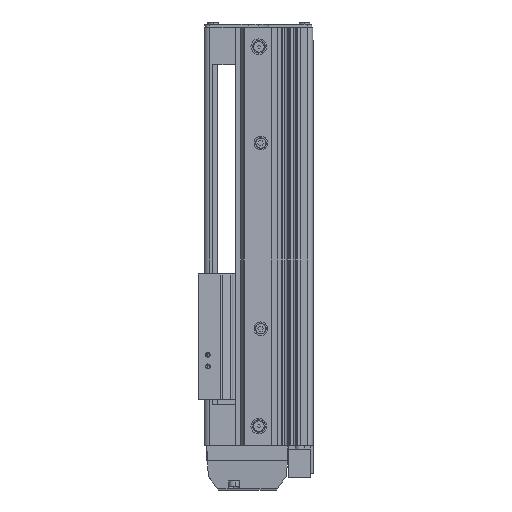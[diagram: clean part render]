
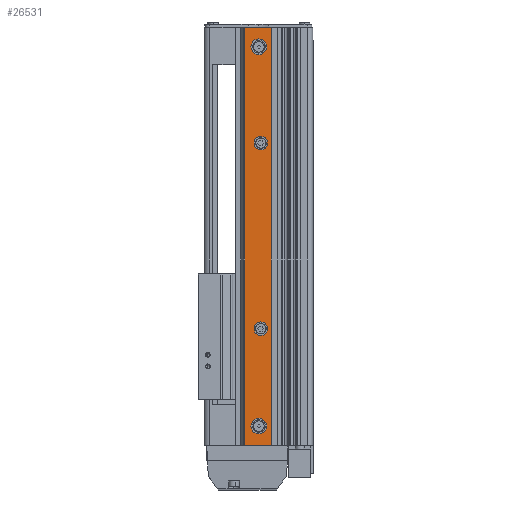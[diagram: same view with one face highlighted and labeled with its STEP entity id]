
A CAD part, left-side view. The second image highlights one B-rep face of the part: STEP entity #26531.
In plain terms, the highlighted planar face has unit normal (-1, 0, 0).
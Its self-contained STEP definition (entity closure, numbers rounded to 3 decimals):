
#7592 = VERTEX_POINT ( 'NONE', #29051 ) ;
#7593 = EDGE_CURVE ( 'NONE', #7651, #7657, #29058, .T. ) ;
#7633 = EDGE_CURVE ( 'NONE', #7643, #7689, #29132, .T. ) ;
#7643 = VERTEX_POINT ( 'NONE', #29272 ) ;
#7651 = VERTEX_POINT ( 'NONE', #29317 ) ;
#7655 = EDGE_CURVE ( 'NONE', #7705, #7592, #29241, .T. ) ;
#7657 = VERTEX_POINT ( 'NONE', #29296 ) ;
#7683 = VERTEX_POINT ( 'NONE', #28987 ) ;
#7687 = VERTEX_POINT ( 'NONE', #29395 ) ;
#7689 = VERTEX_POINT ( 'NONE', #29386 ) ;
#7691 = EDGE_CURVE ( 'NONE', #7683, #7687, #29393, .T. ) ;
#7705 = VERTEX_POINT ( 'NONE', #29365 ) ;
#14967 = PLANE ( 'NONE',  #14999 ) ;
#14969 = DIRECTION ( 'NONE',  ( 0., 1., 0. ) ) ;
#14973 = DIRECTION ( 'NONE',  ( 1., 0., 0. ) ) ;
#14974 = CARTESIAN_POINT ( 'NONE',  ( -29.2, 3.5, 1750. ) ) ;
#14999 = AXIS2_PLACEMENT_3D ( 'NONE', #14974, #14973, #14969 ) ;
#15115 = LINE ( 'NONE', #15129, #15161 ) ;
#15128 = DIRECTION ( 'NONE',  ( 0., 0., -1. ) ) ;
#15129 = CARTESIAN_POINT ( 'NONE',  ( -29.2, 1.398, 1750. ) ) ;
#15161 = VECTOR ( 'NONE', #15128, 1000. ) ;
#15206 = FACE_BOUND ( 'NONE', #26557, .T. ) ;
#15207 = FACE_BOUND ( 'NONE', #24970, .T. ) ;
#15236 = FACE_OUTER_BOUND ( 'NONE', #26642, .T. ) ;
#15237 = FACE_BOUND ( 'NONE', #26655, .T. ) ;
#15244 = FACE_BOUND ( 'NONE', #26313, .T. ) ;
#15285 = CARTESIAN_POINT ( 'NONE',  ( -29.2, 1.398, 0. ) ) ;
#15372 = CARTESIAN_POINT ( 'NONE',  ( -29.2, 3.5, 0. ) ) ;
#15373 = LINE ( 'NONE', #15372, #15441 ) ;
#15440 = DIRECTION ( 'NONE',  ( 0., -1., 0. ) ) ;
#15441 = VECTOR ( 'NONE', #15440, 1000. ) ;
#16616 = CIRCLE ( 'NONE', #16663, 4.1 ) ;
#16646 = DIRECTION ( 'NONE',  ( 0., 0., 1. ) ) ;
#16647 = DIRECTION ( 'NONE',  ( -1., 0., 0. ) ) ;
#16648 = CARTESIAN_POINT ( 'NONE',  ( -29.2, -6., 207. ) ) ;
#16663 = AXIS2_PLACEMENT_3D ( 'NONE', #16648, #16647, #16646 ) ;
#16712 = CIRCLE ( 'NONE', #16730, 3.5 ) ;
#16730 = AXIS2_PLACEMENT_3D ( 'NONE', #16752, #16743, #16742 ) ;
#16742 = DIRECTION ( 'NONE',  ( 0., 0., 1. ) ) ;
#16743 = DIRECTION ( 'NONE',  ( -1., 0., 0. ) ) ;
#16747 = DIRECTION ( 'NONE',  ( 0., 0., 1. ) ) ;
#16748 = DIRECTION ( 'NONE',  ( -1., 0., 0. ) ) ;
#16749 = CARTESIAN_POINT ( 'NONE',  ( -29.2, -7., 60.6 ) ) ;
#16750 = AXIS2_PLACEMENT_3D ( 'NONE', #16749, #16748, #16747 ) ;
#16752 = CARTESIAN_POINT ( 'NONE',  ( -29.2, -7., 157. ) ) ;
#16757 = CIRCLE ( 'NONE', #16750, 3.5 ) ;
#16767 = DIRECTION ( 'NONE',  ( 0., 0., 1. ) ) ;
#16772 = DIRECTION ( 'NONE',  ( -1., 0., 0. ) ) ;
#16777 = CARTESIAN_POINT ( 'NONE',  ( -29.2, -6., 10. ) ) ;
#16781 = AXIS2_PLACEMENT_3D ( 'NONE', #16777, #16772, #16767 ) ;
#16786 = CIRCLE ( 'NONE', #16781, 4.1 ) ;
#16802 = LINE ( 'NONE', #16841, #16840 ) ;
#16839 = DIRECTION ( 'NONE',  ( 0., 1., 0. ) ) ;
#16840 = VECTOR ( 'NONE', #16839, 1000. ) ;
#16841 = CARTESIAN_POINT ( 'NONE',  ( -29.2, 1.398, 217. ) ) ;
#16907 = CARTESIAN_POINT ( 'NONE',  ( -29.2, 1.398, 217. ) ) ;
#17080 = CARTESIAN_POINT ( 'NONE',  ( -29.2, -12.4, 217. ) ) ;
#22858 = EDGE_CURVE ( 'NONE', #7689, #7643, #16616, .T. ) ;
#22908 = EDGE_CURVE ( 'NONE', #7687, #7683, #16757, .T. ) ;
#22909 = EDGE_CURVE ( 'NONE', #7657, #7651, #16712, .T. ) ;
#22934 = EDGE_CURVE ( 'NONE', #7592, #7705, #16786, .T. ) ;
#22965 = EDGE_CURVE ( 'NONE', #23360, #22994, #16802, .T. ) ;
#22994 = VERTEX_POINT ( 'NONE', #16907 ) ;
#23360 = VERTEX_POINT ( 'NONE', #17080 ) ;
#24970 = EDGE_LOOP ( 'NONE', ( #26646, #26678 ) ) ;
#25081 = CARTESIAN_POINT ( 'NONE',  ( -29.2, -12.4, 0. ) ) ;
#25092 = DIRECTION ( 'NONE',  ( 0., 0., 1. ) ) ;
#25093 = VECTOR ( 'NONE', #25092, 1000. ) ;
#25094 = CARTESIAN_POINT ( 'NONE',  ( -29.2, -12.4, 0. ) ) ;
#25105 = LINE ( 'NONE', #25094, #25093 ) ;
#25987 = VERTEX_POINT ( 'NONE', #25081 ) ;
#26015 = EDGE_CURVE ( 'NONE', #25987, #23360, #25105, .T. ) ;
#26313 = EDGE_LOOP ( 'NONE', ( #26532, #26464 ) ) ;
#26438 = EDGE_CURVE ( 'NONE', #22994, #26539, #15115, .T. ) ;
#26458 = ORIENTED_EDGE ( 'NONE', *, *, #7691, .F. ) ;
#26464 = ORIENTED_EDGE ( 'NONE', *, *, #7593, .F. ) ;
#26531 = ADVANCED_FACE ( 'NONE', ( #15244, #15206, #15207, #15237, #15236 ), #14967, .F. ) ;
#26532 = ORIENTED_EDGE ( 'NONE', *, *, #22909, .F. ) ;
#26536 = ORIENTED_EDGE ( 'NONE', *, *, #22908, .F. ) ;
#26539 = VERTEX_POINT ( 'NONE', #15285 ) ;
#26557 = EDGE_LOOP ( 'NONE', ( #26536, #26458 ) ) ;
#26627 = ORIENTED_EDGE ( 'NONE', *, *, #26628, .T. ) ;
#26628 = EDGE_CURVE ( 'NONE', #26539, #25987, #15373, .T. ) ;
#26640 = ORIENTED_EDGE ( 'NONE', *, *, #26015, .T. ) ;
#26641 = ORIENTED_EDGE ( 'NONE', *, *, #7633, .F. ) ;
#26642 = EDGE_LOOP ( 'NONE', ( #26648, #26674, #26627, #26640 ) ) ;
#26646 = ORIENTED_EDGE ( 'NONE', *, *, #22934, .F. ) ;
#26648 = ORIENTED_EDGE ( 'NONE', *, *, #22965, .T. ) ;
#26655 = EDGE_LOOP ( 'NONE', ( #26660, #26641 ) ) ;
#26660 = ORIENTED_EDGE ( 'NONE', *, *, #22858, .F. ) ;
#26674 = ORIENTED_EDGE ( 'NONE', *, *, #26438, .T. ) ;
#26678 = ORIENTED_EDGE ( 'NONE', *, *, #7655, .F. ) ;
#28987 = CARTESIAN_POINT ( 'NONE',  ( -29.2, -7., 57.1 ) ) ;
#29043 = AXIS2_PLACEMENT_3D ( 'NONE', #29052, #29118, #29117 ) ;
#29051 = CARTESIAN_POINT ( 'NONE',  ( -29.2, -6., 14.1 ) ) ;
#29052 = CARTESIAN_POINT ( 'NONE',  ( -29.2, -7., 157. ) ) ;
#29058 = CIRCLE ( 'NONE', #29043, 3.5 ) ;
#29117 = DIRECTION ( 'NONE',  ( 0., 0., 1. ) ) ;
#29118 = DIRECTION ( 'NONE',  ( -1., 0., 0. ) ) ;
#29132 = CIRCLE ( 'NONE', #29270, 4.1 ) ;
#29188 = AXIS2_PLACEMENT_3D ( 'NONE', #29293, #29291, #29289 ) ;
#29241 = CIRCLE ( 'NONE', #29188, 4.1 ) ;
#29262 = DIRECTION ( 'NONE',  ( 0., 0., 1. ) ) ;
#29263 = DIRECTION ( 'NONE',  ( -1., 0., 0. ) ) ;
#29265 = CARTESIAN_POINT ( 'NONE',  ( -29.2, -6., 207. ) ) ;
#29270 = AXIS2_PLACEMENT_3D ( 'NONE', #29265, #29263, #29262 ) ;
#29272 = CARTESIAN_POINT ( 'NONE',  ( -29.2, -6., 202.9 ) ) ;
#29289 = DIRECTION ( 'NONE',  ( 0., 0., 1. ) ) ;
#29291 = DIRECTION ( 'NONE',  ( -1., 0., 0. ) ) ;
#29293 = CARTESIAN_POINT ( 'NONE',  ( -29.2, -6., 10. ) ) ;
#29296 = CARTESIAN_POINT ( 'NONE',  ( -29.2, -7., 160.5 ) ) ;
#29317 = CARTESIAN_POINT ( 'NONE',  ( -29.2, -7., 153.5 ) ) ;
#29365 = CARTESIAN_POINT ( 'NONE',  ( -29.2, -6., 5.9 ) ) ;
#29378 = DIRECTION ( 'NONE',  ( 0., 0., 1. ) ) ;
#29379 = DIRECTION ( 'NONE',  ( -1., 0., 0. ) ) ;
#29380 = CARTESIAN_POINT ( 'NONE',  ( -29.2, -7., 60.6 ) ) ;
#29381 = AXIS2_PLACEMENT_3D ( 'NONE', #29380, #29379, #29378 ) ;
#29386 = CARTESIAN_POINT ( 'NONE',  ( -29.2, -6., 211.1 ) ) ;
#29393 = CIRCLE ( 'NONE', #29381, 3.5 ) ;
#29395 = CARTESIAN_POINT ( 'NONE',  ( -29.2, -7., 64.1 ) ) ;
